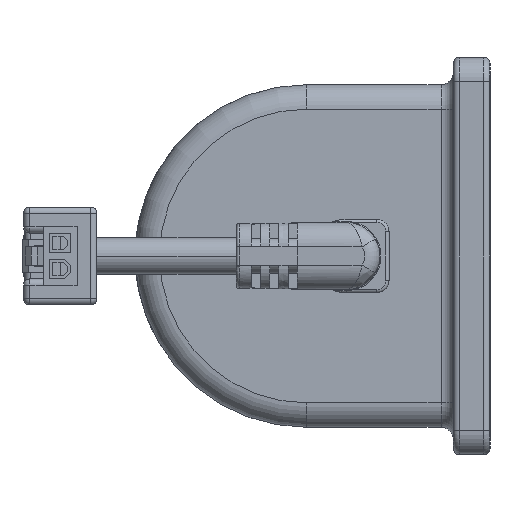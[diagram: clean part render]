
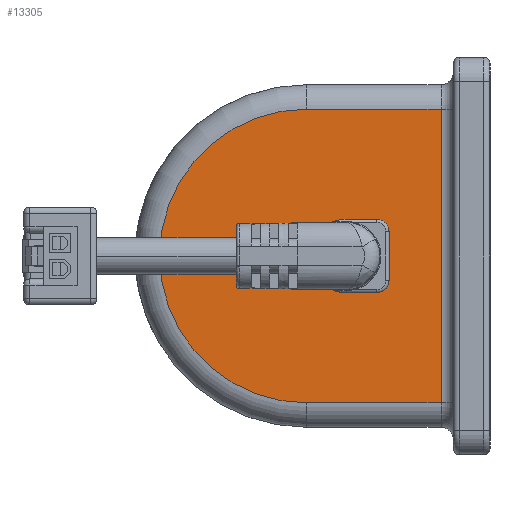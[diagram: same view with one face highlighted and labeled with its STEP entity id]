
A CAD part, left-side view. The second image highlights one B-rep face of the part: STEP entity #13305.
In plain terms, the highlighted planar face has unit normal (-1, 0, 0).
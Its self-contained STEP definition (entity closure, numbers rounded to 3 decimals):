
#1354=DIRECTION('',(0.,-1.,0.));
#1355=VECTOR('',#1354,22.);
#1356=CARTESIAN_POINT('',(-70.,30.,-24.));
#1357=LINE('',#1356,#1355);
#1358=CARTESIAN_POINT('',(-70.,23.5,0.));
#1359=DIRECTION('',(-1.,0.,0.));
#1360=DIRECTION('',(0.,0.837,-0.548));
#1361=AXIS2_PLACEMENT_3D('',#1358,#1359,#1360);
#1363=CARTESIAN_POINT('',(-70.,23.5,0.));
#1364=DIRECTION('',(-1.,0.,0.));
#1365=DIRECTION('',(0.,0.,1.));
#1366=AXIS2_PLACEMENT_3D('',#1363,#1364,#1365);
#1368=DIRECTION('',(0.,-1.,0.));
#1369=VECTOR('',#1368,22.);
#1370=CARTESIAN_POINT('',(-70.,30.,24.));
#1371=LINE('',#1370,#1369);
#1372=CARTESIAN_POINT('',(-70.,30.,0.));
#1373=DIRECTION('',(1.,0.,0.));
#1374=DIRECTION('',(0.,0.,-1.));
#1375=AXIS2_PLACEMENT_3D('',#1372,#1373,#1374);
#1385=CARTESIAN_POINT('',(-70.,28.519,
-3.288));
#1386=CARTESIAN_POINT('',(-70.,28.583,
-3.19));
#1387=CARTESIAN_POINT('',(-70.,28.716,
-3.002));
#1388=CARTESIAN_POINT('',(-70.,28.915,
-2.739));
#1389=CARTESIAN_POINT('',(-70.,29.11,
-2.488));
#1390=CARTESIAN_POINT('',(-70.,29.298,
-2.245));
#1391=CARTESIAN_POINT('',(-70.,29.48,
-2.004));
#1392=CARTESIAN_POINT('',(-70.,29.655,
-1.758));
#1393=CARTESIAN_POINT('',(-70.,29.77,
-1.587));
#1394=CARTESIAN_POINT('',(-70.,29.825,
-1.5));
#1414=DIRECTION('',(0.,-1.,0.));
#1415=VECTOR('',#1414,1.675);
#1416=CARTESIAN_POINT('',(-70.,31.5,
-1.5));
#1417=LINE('',#1416,#1415);
#1453=DIRECTION('',(0.,0.,-1.));
#1454=VECTOR('',#1453,3.);
#1455=CARTESIAN_POINT('',(-70.,31.5,1.5));
#1456=LINE('',#1455,#1454);
#1495=DIRECTION('',(0.,-1.,0.));
#1496=VECTOR('',#1495,1.675);
#1497=CARTESIAN_POINT('',(-70.,31.5,1.5));
#1498=LINE('',#1497,#1496);
#1521=CARTESIAN_POINT('',(-70.,29.825,1.5));
#1522=CARTESIAN_POINT('',(-70.,29.769,1.587));
#1523=CARTESIAN_POINT('',(-70.,29.654,1.76));
#1524=CARTESIAN_POINT('',(-70.,29.474,2.011));
#1525=CARTESIAN_POINT('',(-70.,29.288,2.258));
#1526=CARTESIAN_POINT('',(-70.,29.098,2.504));
#1527=CARTESIAN_POINT('',(-70.,28.904,2.752));
#1528=CARTESIAN_POINT('',(-70.,28.71,3.01));
#1529=CARTESIAN_POINT('',(-70.,28.581,3.192));
#1530=CARTESIAN_POINT('',(-70.,28.519,3.288));
#1581=DIRECTION('',(0.,-1.,0.));
#1582=VECTOR('',#1581,5.);
#1583=CARTESIAN_POINT('',(-70.,23.5,6.));
#1584=LINE('',#1583,#1582);
#1585=CARTESIAN_POINT('',(-70.,18.5,4.));
#1586=DIRECTION('',(1.,0.,0.));
#1587=DIRECTION('',(0.,0.,1.));
#1588=AXIS2_PLACEMENT_3D('',#1585,#1586,#1587);
#1598=DIRECTION('',(0.,0.,-1.));
#1599=VECTOR('',#1598,8.);
#1600=CARTESIAN_POINT('',(-70.,16.5,4.));
#1601=LINE('',#1600,#1599);
#1602=CARTESIAN_POINT('',(-70.,18.5,-4.));
#1603=DIRECTION('',(1.,0.,0.));
#1604=DIRECTION('',(0.,-1.,0.));
#1605=AXIS2_PLACEMENT_3D('',#1602,#1603,#1604);
#1615=DIRECTION('',(0.,1.,0.));
#1616=VECTOR('',#1615,5.);
#1617=CARTESIAN_POINT('',(-70.,18.5,-6.));
#1618=LINE('',#1617,#1616);
#5918=DIRECTION('',(0.,0.,1.));
#5919=VECTOR('',#5918,48.);
#5920=CARTESIAN_POINT('',(-70.,8.,-24.));
#5921=LINE('',#5920,#5919);
#9985=CARTESIAN_POINT('',(-70.,31.5,
-1.5));
#9987=VERTEX_POINT('',#9985);
#10088=CARTESIAN_POINT('',(-70.,31.5,
1.5));
#10089=VERTEX_POINT('',#10088);
#10436=CARTESIAN_POINT('',(-70.,30.,24.));
#10438=VERTEX_POINT('',#10436);
#10439=CARTESIAN_POINT('',(-70.,30.,-24.));
#10441=VERTEX_POINT('',#10439);
#11084=CARTESIAN_POINT('',(-70.,8.,24.));
#11085=VERTEX_POINT('',#11084);
#11088=CARTESIAN_POINT('',(-70.,8.,-24.));
#11089=VERTEX_POINT('',#11088);
#11646=CARTESIAN_POINT('',(-70.,29.825,
1.5));
#11647=VERTEX_POINT('',#11646);
#11648=VERTEX_POINT('',#1530);
#11649=VERTEX_POINT('',#1385);
#11650=VERTEX_POINT('',#1394);
#11659=CARTESIAN_POINT('',(-70.,18.5,6.));
#11660=CARTESIAN_POINT('',(-70.,16.5,4.));
#11661=VERTEX_POINT('',#11659);
#11662=VERTEX_POINT('',#11660);
#11663=CARTESIAN_POINT('',(-70.,23.5,6.));
#11664=VERTEX_POINT('',#11663);
#11683=CARTESIAN_POINT('',(-70.,16.5,-4.));
#11684=CARTESIAN_POINT('',(-70.,18.5,-6.));
#11685=VERTEX_POINT('',#11683);
#11686=VERTEX_POINT('',#11684);
#11687=CARTESIAN_POINT('',(-70.,23.5,-6.));
#11688=VERTEX_POINT('',#11687);
#13265=CARTESIAN_POINT('',(-70.,27.658,4.158));
#13266=DIRECTION('',(1.,0.,0.));
#13267=DIRECTION('',(0.,0.,1.));
#13268=AXIS2_PLACEMENT_3D('',#13265,#13266,#13267);
#13269=PLANE('',#13268);
#13271=ORIENTED_EDGE('',*,*,#13270,.T.);
#13273=ORIENTED_EDGE('',*,*,#13272,.F.);
#13274=ORIENTED_EDGE('',*,*,#13255,.F.);
#13276=ORIENTED_EDGE('',*,*,#13275,.T.);
#13277=EDGE_LOOP('',(#13271,#13273,#13274,#13276));
#13278=FACE_OUTER_BOUND('',#13277,.F.);
#13280=ORIENTED_EDGE('',*,*,#13279,.T.);
#13282=ORIENTED_EDGE('',*,*,#13281,.F.);
#13284=ORIENTED_EDGE('',*,*,#13283,.F.);
#13286=ORIENTED_EDGE('',*,*,#13285,.F.);
#13288=ORIENTED_EDGE('',*,*,#13287,.F.);
#13290=ORIENTED_EDGE('',*,*,#13289,.F.);
#13292=ORIENTED_EDGE('',*,*,#13291,.T.);
#13294=ORIENTED_EDGE('',*,*,#13293,.F.);
#13296=ORIENTED_EDGE('',*,*,#13295,.F.);
#13298=ORIENTED_EDGE('',*,*,#13297,.T.);
#13300=ORIENTED_EDGE('',*,*,#13299,.T.);
#13302=ORIENTED_EDGE('',*,*,#13301,.F.);
#13303=EDGE_LOOP('',(#13280,#13282,#13284,#13286,#13288,#13290,#13292,#13294,
#13296,#13298,#13300,#13302));
#13304=FACE_BOUND('',#13303,.F.);
#13305=ADVANCED_FACE('',(#13278,#13304),#13269,.F.);
#1362=CIRCLE('',#1361,6.);
#1367=CIRCLE('',#1366,6.);
#1376=CIRCLE('',#1375,24.);
#1395=B_SPLINE_CURVE_WITH_KNOTS('',3,(#1385,#1386,#1387,#1388,#1389,#1390,#1391,
#1392,#1393,#1394),.UNSPECIFIED.,.F.,.F.,(4,1,1,1,1,1,1,4),(0.,
0.143,0.286,0.429,0.571,
0.714,0.857,1.),.UNSPECIFIED.);
#1531=B_SPLINE_CURVE_WITH_KNOTS('',3,(#1521,#1522,#1523,#1524,#1525,#1526,#1527,
#1528,#1529,#1530),.UNSPECIFIED.,.F.,.F.,(4,1,1,1,1,1,1,4),(0.,
0.143,0.286,0.429,0.571,
0.714,0.857,1.),.UNSPECIFIED.);
#1589=CIRCLE('',#1588,2.);
#1606=CIRCLE('',#1605,2.);
#13255=EDGE_CURVE('',#10441,#11089,#1357,.T.);
#13270=EDGE_CURVE('',#10438,#11085,#1371,.T.);
#13272=EDGE_CURVE('',#11089,#11085,#5921,.T.);
#13275=EDGE_CURVE('',#10441,#10438,#1376,.T.);
#13279=EDGE_CURVE('',#11649,#11688,#1362,.T.);
#13281=EDGE_CURVE('',#11686,#11688,#1618,.T.);
#13283=EDGE_CURVE('',#11685,#11686,#1606,.T.);
#13285=EDGE_CURVE('',#11662,#11685,#1601,.T.);
#13287=EDGE_CURVE('',#11661,#11662,#1589,.T.);
#13289=EDGE_CURVE('',#11664,#11661,#1584,.T.);
#13291=EDGE_CURVE('',#11664,#11648,#1367,.T.);
#13293=EDGE_CURVE('',#11647,#11648,#1531,.T.);
#13295=EDGE_CURVE('',#10089,#11647,#1498,.T.);
#13297=EDGE_CURVE('',#10089,#9987,#1456,.T.);
#13299=EDGE_CURVE('',#9987,#11650,#1417,.T.);
#13301=EDGE_CURVE('',#11649,#11650,#1395,.T.);
